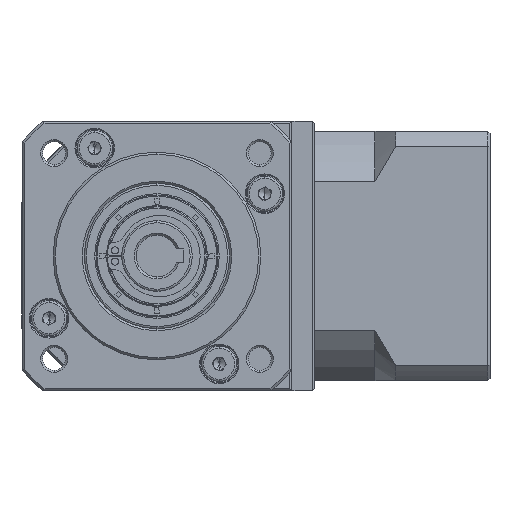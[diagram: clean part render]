
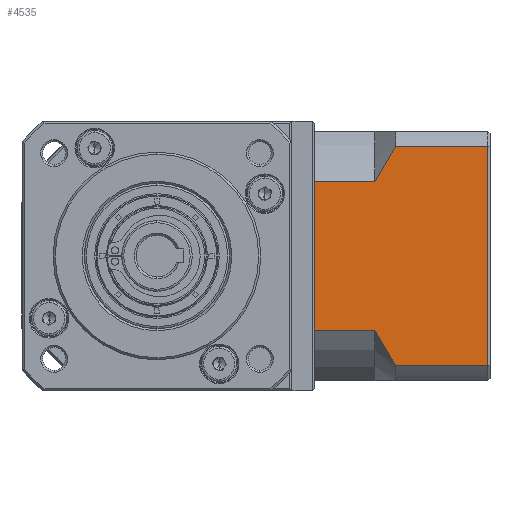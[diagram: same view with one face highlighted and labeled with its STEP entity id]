
A CAD part, left-side view. The second image highlights one B-rep face of the part: STEP entity #4535.
In plain terms, the highlighted planar face has unit normal (-1, 0, 0).
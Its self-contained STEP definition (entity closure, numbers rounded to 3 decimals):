
#160 = DIRECTION ( 'NONE',  ( 0., 1., 0. ) ) ;
#193 = LINE ( 'NONE', #129072, #28874 ) ;
#2867 = VECTOR ( 'NONE', #76730, 1000. ) ;
#3224 = EDGE_CURVE ( 'NONE', #35190, #110725, #96317, .T. ) ;
#3659 = CARTESIAN_POINT ( 'NONE',  ( -28.259, -63.871, -140.518 ) ) ;
#4112 = AXIS2_PLACEMENT_3D ( 'NONE', #146323, #73362, #160 ) ;
#4535 = ADVANCED_FACE ( 'NONE', ( #84465 ), #97193, .F. ) ;
#8507 = CARTESIAN_POINT ( 'NONE',  ( -28.259, -63.873, -93.084 ) ) ;
#8604 = ORIENTED_EDGE ( 'NONE', *, *, #16081, .F. ) ;
#9464 = CARTESIAN_POINT ( 'NONE',  ( -28.259, -46.146, -146.803 ) ) ;
#9875 = CARTESIAN_POINT ( 'NONE',  ( -28.259, -65.646, -143.26 ) ) ;
#12230 = CARTESIAN_POINT ( 'NONE',  ( -28.259, -46.146, -134.83 ) ) ;
#12669 = LINE ( 'NONE', #107485, #41358 ) ;
#13455 = VERTEX_POINT ( 'NONE', #32449 ) ;
#15130 = EDGE_CURVE ( 'NONE', #13455, #87179, #96993, .T. ) ;
#15952 = CARTESIAN_POINT ( 'NONE',  ( -28.259, -65.646, -143.26 ) ) ;
#16081 = EDGE_CURVE ( 'NONE', #29673, #110725, #118163, .T. ) ;
#17347 = VERTEX_POINT ( 'NONE', #23982 ) ;
#19057 = ORIENTED_EDGE ( 'NONE', *, *, #122870, .T. ) ;
#20784 = EDGE_CURVE ( 'NONE', #35190, #87179, #193, .T. ) ;
#20830 = CARTESIAN_POINT ( 'NONE',  ( -28.259, -61.394, -97.323 ) ) ;
#22625 = VECTOR ( 'NONE', #82519, 1000. ) ;
#23982 = CARTESIAN_POINT ( 'NONE',  ( -28.259, -60.646, -98.775 ) ) ;
#28301 = EDGE_LOOP ( 'NONE', ( #53313, #135624, #8604, #150002, #145136, #19057, #110288, #36174 ) ) ;
#28874 = VECTOR ( 'NONE', #141421, 1000. ) ;
#28922 = EDGE_CURVE ( 'NONE', #29673, #17347, #132713, .T. ) ;
#29673 = VERTEX_POINT ( 'NONE', #142539 ) ;
#32449 = CARTESIAN_POINT ( 'NONE',  ( -28.259, -60.646, -134.83 ) ) ;
#35190 = VERTEX_POINT ( 'NONE', #72826 ) ;
#36174 = ORIENTED_EDGE ( 'NONE', *, *, #15130, .T. ) ;
#40050 = CARTESIAN_POINT ( 'NONE',  ( -28.259, -61.396, -136.287 ) ) ;
#41358 = VECTOR ( 'NONE', #119756, 1000. ) ;
#42609 = DIRECTION ( 'NONE',  ( 0., -1., 0. ) ) ;
#43144 = VERTEX_POINT ( 'NONE', #70393 ) ;
#49562 = VECTOR ( 'NONE', #42609, 1000. ) ;
#52295 = CARTESIAN_POINT ( 'NONE',  ( -28.259, -60.646, -134.83 ) ) ;
#53313 = ORIENTED_EDGE ( 'NONE', *, *, #20784, .F. ) ;
#56089 = DIRECTION ( 'NONE',  ( 0., 1., 0. ) ) ;
#57165 = CARTESIAN_POINT ( 'NONE',  ( -28.259, -65.646, -90.345 ) ) ;
#69425 = CARTESIAN_POINT ( 'NONE',  ( -28.259, -64.746, -91.705 ) ) ;
#70393 = CARTESIAN_POINT ( 'NONE',  ( -28.259, -46.146, -98.775 ) ) ;
#72826 = CARTESIAN_POINT ( 'NONE',  ( -28.259, -87.846, -143.26 ) ) ;
#73362 = DIRECTION ( 'NONE',  ( 1., 0., 0. ) ) ;
#76730 = DIRECTION ( 'NONE',  ( 0., 0., 1. ) ) ;
#76843 = CARTESIAN_POINT ( 'NONE',  ( -28.259, -62.197, -137.712 ) ) ;
#82519 = DIRECTION ( 'NONE',  ( 0., 0., -1. ) ) ;
#84465 = FACE_OUTER_BOUND ( 'NONE', #28301, .T. ) ;
#87179 = VERTEX_POINT ( 'NONE', #9875 ) ;
#87436 = LINE ( 'NONE', #9464, #22625 ) ;
#89011 = CARTESIAN_POINT ( 'NONE',  ( -28.259, -64.745, -141.897 ) ) ;
#93754 = CARTESIAN_POINT ( 'NONE',  ( -28.259, -62.197, -95.891 ) ) ;
#96317 = LINE ( 'NONE', #120072, #2867 ) ;
#96993 = B_SPLINE_CURVE_WITH_KNOTS ( 'NONE', 3,
 ( #52295, #40050, #76843, #3659, #89011, #15952 ),
 .UNSPECIFIED., .F., .F.,
 ( 4, 2, 4 ),
 ( 0.1, 0.104, 0.109 ),
 .UNSPECIFIED. ) ;
#97193 = PLANE ( 'NONE',  #4112 ) ;
#106069 = CARTESIAN_POINT ( 'NONE',  ( -28.259, -60.646, -98.775 ) ) ;
#107485 = CARTESIAN_POINT ( 'NONE',  ( -28.259, -60.646, -98.775 ) ) ;
#110288 = ORIENTED_EDGE ( 'NONE', *, *, #143901, .F. ) ;
#110725 = VERTEX_POINT ( 'NONE', #154660 ) ;
#116048 = EDGE_CURVE ( 'NONE', #43144, #17347, #12669, .T. ) ;
#116752 = CARTESIAN_POINT ( 'NONE',  ( -28.259, -60.646, -134.83 ) ) ;
#118163 = LINE ( 'NONE', #139634, #49562 ) ;
#119756 = DIRECTION ( 'NONE',  ( 0., -1., 0. ) ) ;
#120072 = CARTESIAN_POINT ( 'NONE',  ( -28.259, -87.846, -146.803 ) ) ;
#121350 = VECTOR ( 'NONE', #56089, 1000. ) ;
#122870 = EDGE_CURVE ( 'NONE', #43144, #127793, #87436, .T. ) ;
#127793 = VERTEX_POINT ( 'NONE', #12230 ) ;
#129072 = CARTESIAN_POINT ( 'NONE',  ( -28.259, -60.646, -143.26 ) ) ;
#132713 = B_SPLINE_CURVE_WITH_KNOTS ( 'NONE', 3,
 ( #57165, #69425, #8507, #93754, #20830, #106069 ),
 .UNSPECIFIED., .F., .F.,
 ( 4, 2, 4 ),
 ( 0.052, 0.057, 0.062 ),
 .UNSPECIFIED. ) ;
#135624 = ORIENTED_EDGE ( 'NONE', *, *, #3224, .T. ) ;
#139634 = CARTESIAN_POINT ( 'NONE',  ( -28.259, -60.646, -90.345 ) ) ;
#141421 = DIRECTION ( 'NONE',  ( 0., 1., 0. ) ) ;
#142539 = CARTESIAN_POINT ( 'NONE',  ( -28.259, -65.646, -90.345 ) ) ;
#143901 = EDGE_CURVE ( 'NONE', #13455, #127793, #149983, .T. ) ;
#145136 = ORIENTED_EDGE ( 'NONE', *, *, #116048, .F. ) ;
#146323 = CARTESIAN_POINT ( 'NONE',  ( -28.259, -88.346, -146.803 ) ) ;
#149983 = LINE ( 'NONE', #116752, #121350 ) ;
#150002 = ORIENTED_EDGE ( 'NONE', *, *, #28922, .T. ) ;
#154660 = CARTESIAN_POINT ( 'NONE',  ( -28.259, -87.846, -90.345 ) ) ;
